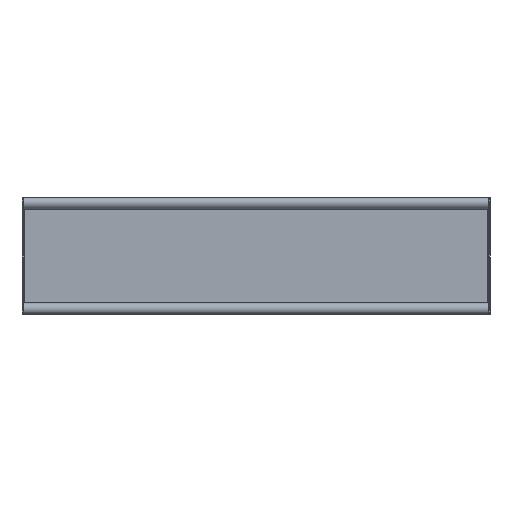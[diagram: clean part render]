
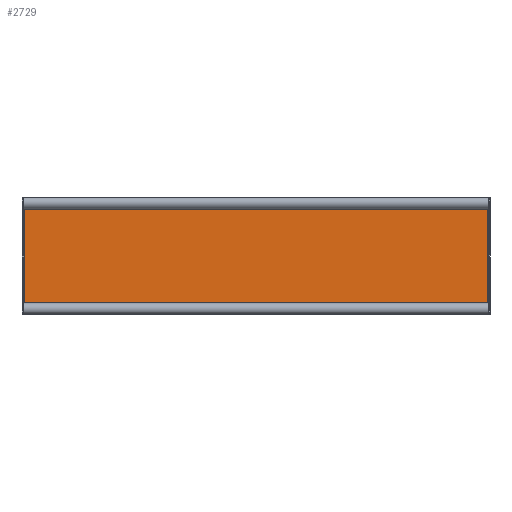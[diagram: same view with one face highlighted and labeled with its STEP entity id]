
A CAD part, front view. The second image highlights one B-rep face of the part: STEP entity #2729.
In plain terms, the highlighted planar face has unit normal (0, -1, 0).
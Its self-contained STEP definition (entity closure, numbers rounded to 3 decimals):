
#18 = CARTESIAN_POINT ( 'NONE',  ( -399., -2., -96. ) ) ;
#88 = CIRCLE ( 'NONE', #1382, 5. ) ;
#380 = ORIENTED_EDGE ( 'NONE', *, *, #9490, .F. ) ;
#401 = VERTEX_POINT ( 'NONE', #5106 ) ;
#450 = LINE ( 'NONE', #4330, #5104 ) ;
#586 = PLANE ( 'NONE',  #5358 ) ;
#666 = DIRECTION ( 'NONE',  ( 0., 0., 1. ) ) ;
#860 = EDGE_LOOP ( 'NONE', ( #8234, #9757, #4313, #380, #3287, #4747, #8088, #8278 ) ) ;
#892 = CIRCLE ( 'NONE', #8725, 5. ) ;
#964 = VERTEX_POINT ( 'NONE', #8377 ) ;
#1360 = VERTEX_POINT ( 'NONE', #4662 ) ;
#1382 = AXIS2_PLACEMENT_3D ( 'NONE', #3904, #1775, #8520 ) ;
#1436 = CARTESIAN_POINT ( 'NONE',  ( -396., -2., -99. ) ) ;
#1438 = EDGE_CURVE ( 'NONE', #1360, #8955, #892, .T. ) ;
#1479 = VERTEX_POINT ( 'NONE', #4476 ) ;
#1568 = CARTESIAN_POINT ( 'NONE',  ( 399., -2., -99. ) ) ;
#1598 = CARTESIAN_POINT ( 'NONE',  ( -399., -2., 99. ) ) ;
#1775 = DIRECTION ( 'NONE',  ( 0., -1., 0. ) ) ;
#1854 = EDGE_CURVE ( 'NONE', #1479, #964, #88, .T. ) ;
#2729 = ADVANCED_FACE ( 'NONE', ( #7448 ), #586, .F. ) ;
#2892 = DIRECTION ( 'NONE',  ( 1., 0., 0. ) ) ;
#3012 = EDGE_CURVE ( 'NONE', #1479, #401, #6880, .T. ) ;
#3027 = CIRCLE ( 'NONE', #8624, 5. ) ;
#3133 = CIRCLE ( 'NONE', #8724, 5. ) ;
#3219 = DIRECTION ( 'NONE',  ( 0., -1., 0. ) ) ;
#3287 = ORIENTED_EDGE ( 'NONE', *, *, #1438, .F. ) ;
#3323 = EDGE_CURVE ( 'NONE', #3888, #7057, #9437, .T. ) ;
#3739 = CARTESIAN_POINT ( 'NONE',  ( -399., -2., -99. ) ) ;
#3825 = LINE ( 'NONE', #1436, #6087 ) ;
#3888 = VERTEX_POINT ( 'NONE', #7129 ) ;
#3904 = CARTESIAN_POINT ( 'NONE',  ( -399., -2., -99. ) ) ;
#4313 = ORIENTED_EDGE ( 'NONE', *, *, #9416, .F. ) ;
#4330 = CARTESIAN_POINT ( 'NONE',  ( -399., -2., 96. ) ) ;
#4339 = EDGE_CURVE ( 'NONE', #3888, #401, #3133, .T. ) ;
#4416 = DIRECTION ( 'NONE',  ( 1., 0., 0. ) ) ;
#4476 = CARTESIAN_POINT ( 'NONE',  ( -395., -2., -96. ) ) ;
#4632 = DIRECTION ( 'NONE',  ( 0., 1., 0. ) ) ;
#4662 = CARTESIAN_POINT ( 'NONE',  ( -396., -2., 95. ) ) ;
#4747 = ORIENTED_EDGE ( 'NONE', *, *, #7670, .F. ) ;
#4945 = DIRECTION ( 'NONE',  ( 0., -1., 0. ) ) ;
#5104 = VECTOR ( 'NONE', #2892, 1000. ) ;
#5106 = CARTESIAN_POINT ( 'NONE',  ( 395., -2., -96. ) ) ;
#5358 = AXIS2_PLACEMENT_3D ( 'NONE', #3739, #4632, #8345 ) ;
#5833 = VECTOR ( 'NONE', #7725, 1000. ) ;
#6087 = VECTOR ( 'NONE', #666, 1000. ) ;
#6474 = CARTESIAN_POINT ( 'NONE',  ( 395., -2., 96. ) ) ;
#6552 = CARTESIAN_POINT ( 'NONE',  ( 399., -2., 99. ) ) ;
#6588 = VERTEX_POINT ( 'NONE', #6474 ) ;
#6829 = CARTESIAN_POINT ( 'NONE',  ( -395., -2., 96. ) ) ;
#6880 = LINE ( 'NONE', #18, #7588 ) ;
#7057 = VERTEX_POINT ( 'NONE', #9302 ) ;
#7129 = CARTESIAN_POINT ( 'NONE',  ( 396., -2., -95. ) ) ;
#7448 = FACE_OUTER_BOUND ( 'NONE', #860, .T. ) ;
#7588 = VECTOR ( 'NONE', #4416, 1000. ) ;
#7644 = DIRECTION ( 'NONE',  ( 0., 0., 1. ) ) ;
#7670 = EDGE_CURVE ( 'NONE', #964, #1360, #3825, .T. ) ;
#7725 = DIRECTION ( 'NONE',  ( 0., 0., 1. ) ) ;
#7771 = CARTESIAN_POINT ( 'NONE',  ( 396., -2., -99. ) ) ;
#7954 = DIRECTION ( 'NONE',  ( 0., 0., 1. ) ) ;
#8088 = ORIENTED_EDGE ( 'NONE', *, *, #1854, .F. ) ;
#8234 = ORIENTED_EDGE ( 'NONE', *, *, #4339, .F. ) ;
#8278 = ORIENTED_EDGE ( 'NONE', *, *, #3012, .T. ) ;
#8345 = DIRECTION ( 'NONE',  ( 0., 0., 1. ) ) ;
#8377 = CARTESIAN_POINT ( 'NONE',  ( -396., -2., -95. ) ) ;
#8520 = DIRECTION ( 'NONE',  ( 0., 0., 1. ) ) ;
#8624 = AXIS2_PLACEMENT_3D ( 'NONE', #6552, #4945, #7954 ) ;
#8724 = AXIS2_PLACEMENT_3D ( 'NONE', #1568, #3219, #9882 ) ;
#8725 = AXIS2_PLACEMENT_3D ( 'NONE', #1598, #9298, #7644 ) ;
#8955 = VERTEX_POINT ( 'NONE', #6829 ) ;
#9298 = DIRECTION ( 'NONE',  ( 0., -1., 0. ) ) ;
#9302 = CARTESIAN_POINT ( 'NONE',  ( 396., -2., 95. ) ) ;
#9416 = EDGE_CURVE ( 'NONE', #6588, #7057, #3027, .T. ) ;
#9437 = LINE ( 'NONE', #7771, #5833 ) ;
#9490 = EDGE_CURVE ( 'NONE', #8955, #6588, #450, .T. ) ;
#9757 = ORIENTED_EDGE ( 'NONE', *, *, #3323, .T. ) ;
#9882 = DIRECTION ( 'NONE',  ( 0., 0., 1. ) ) ;
